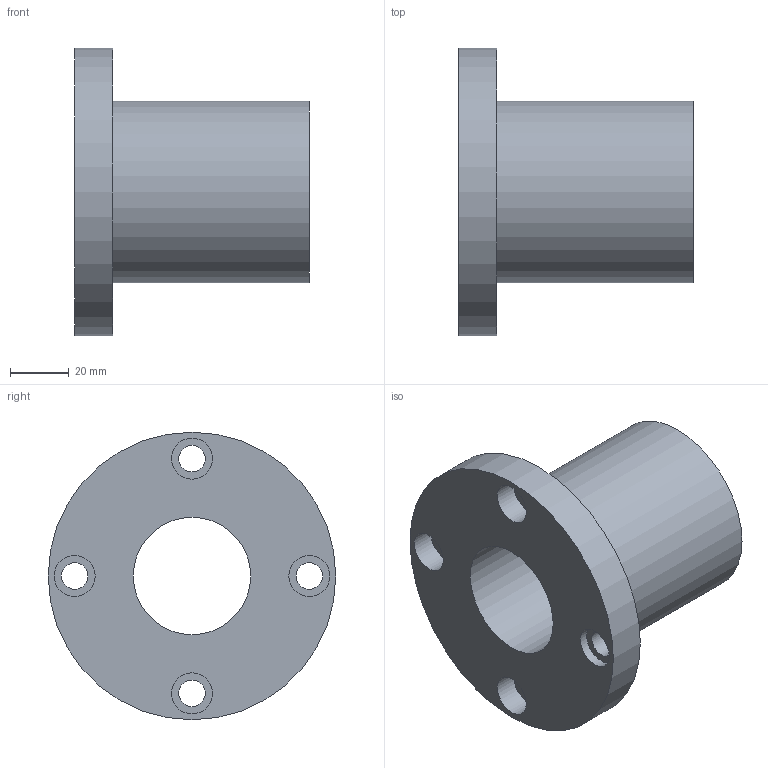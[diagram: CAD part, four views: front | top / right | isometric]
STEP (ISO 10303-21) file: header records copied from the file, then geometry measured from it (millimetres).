
FILE_DESCRIPTION( ( 'STEP AP203' ), '1' );
FILE_NAME( 'p:/temp/worker_7/temp/exporttempdir_3240_298_Xu1ix/format_0/LMEF40UU.stp', '2020-05-07T03:20:46', ( 'License CC BY-ND 4.0' ), ( 'CADENAS' ), ' ', 'PARTsolutions', ' ' );
FILE_SCHEMA( ( 'CONFIG_CONTROL_DESIGN' ) );
Length unit declared in the file: millimetre
Products named in the file (1): _LMEF40UU
Bounding box: 80 x 98 x 98 mm (x, y, z)
Volume: 194022.4 mm3; surface area: 41070 mm2
Topology: 1 solids, 1 shells, 18 faces, 34 edges, 23 vertices
Faces by surface type: cylinder 11, plane 7
Full cylindrical faces by diameter (mm): 9 x4, 14 x4, 40 x1, 62 x1, 98 x1
Entity records: 468 total; most frequent: DIRECTION 82, CARTESIAN_POINT 63, EDGE_LOOP 44, ORIENTED_EDGE 44, AXIS2_PLACEMENT_3D 41, FACE_OUTER_BOUND 29, EDGE_CURVE 22, VERTEX_POINT 22
